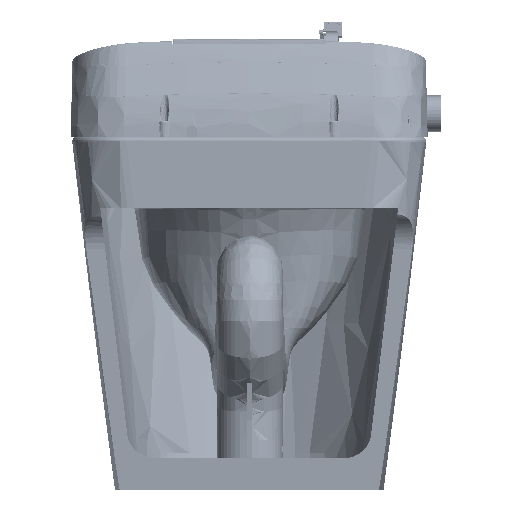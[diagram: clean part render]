
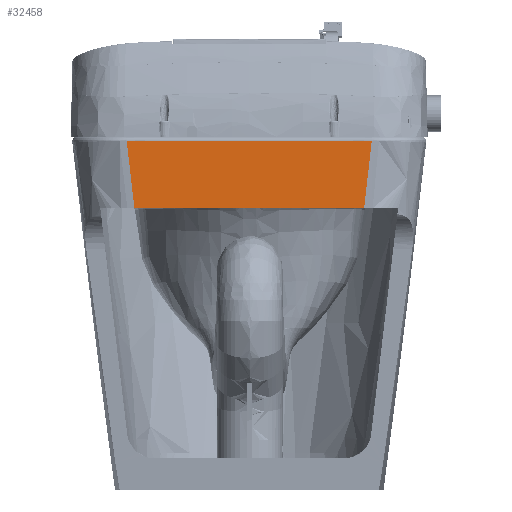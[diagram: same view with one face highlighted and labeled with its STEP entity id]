
A CAD part, left-side view. The second image highlights one B-rep face of the part: STEP entity #32458.
In plain terms, the highlighted free-form (B-spline) face has degree [1, 1] with [2, 2] control points.
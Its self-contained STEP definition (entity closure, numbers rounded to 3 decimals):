
#1366=(
BOUNDED_CURVE()
B_SPLINE_CURVE(3,(#435737,#435738,#435739,#435740,#435741,#435742),.UNSPECIFIED.,
 .F.,.F.)
B_SPLINE_CURVE_WITH_KNOTS((4,2,4),(0.,0.5,1.),.UNSPECIFIED.)
CURVE()
GEOMETRIC_REPRESENTATION_ITEM()
RATIONAL_B_SPLINE_CURVE((1.,1.,1.,1.,1.,1.))
REPRESENTATION_ITEM('')
);
#1368=(
BOUNDED_CURVE()
B_SPLINE_CURVE(3,(#435796,#435797,#435798,#435799,#435800,#435801),.UNSPECIFIED.,
 .F.,.F.)
B_SPLINE_CURVE_WITH_KNOTS((4,2,4),(0.,0.5,1.),.UNSPECIFIED.)
CURVE()
GEOMETRIC_REPRESENTATION_ITEM()
RATIONAL_B_SPLINE_CURVE((1.,1.,1.,1.,1.,1.))
REPRESENTATION_ITEM('')
);
#1369=(
BOUNDED_CURVE()
B_SPLINE_CURVE(3,(#435803,#435804,#435805,#435806),.UNSPECIFIED.,.F.,.F.)
B_SPLINE_CURVE_WITH_KNOTS((4,4),(0.,1.),.UNSPECIFIED.)
CURVE()
GEOMETRIC_REPRESENTATION_ITEM()
RATIONAL_B_SPLINE_CURVE((1.,1.,1.,1.))
REPRESENTATION_ITEM('')
);
#2767=B_SPLINE_SURFACE_WITH_KNOTS('',1,1,((#435807,#435808),(#435809,#435810)),
 .UNSPECIFIED.,.F.,.F.,.F.,(2,2),(2,2),(0.,1.),(0.,1.),.UNSPECIFIED.);
#18780=FACE_OUTER_BOUND('',#46839,.T.);
#32458=ADVANCED_FACE('',(#18780),#2767,.F.);
#46839=EDGE_LOOP('',(#87283,#87284,#87285,#87286));
#87283=ORIENTED_EDGE('',*,*,#123462,.F.);
#87284=ORIENTED_EDGE('',*,*,#123557,.F.);
#87285=ORIENTED_EDGE('',*,*,#123558,.F.);
#87286=ORIENTED_EDGE('',*,*,#123555,.F.);
#102726=VERTEX_POINT('',#426106);
#102727=VERTEX_POINT('',#426109);
#102784=VERTEX_POINT('',#435743);
#102785=VERTEX_POINT('',#435802);
#123462=EDGE_CURVE('',#102726,#102727,#138211,.T.);
#123555=EDGE_CURVE('',#102727,#102784,#1366,.T.);
#123557=EDGE_CURVE('',#102785,#102726,#1368,.T.);
#123558=EDGE_CURVE('',#102784,#102785,#1369,.T.);
#138211=B_SPLINE_CURVE_WITH_KNOTS('',1,(#426107,#426108),.UNSPECIFIED.,.F.,
 .F.,(2,2),(0.,1.),.UNSPECIFIED.);
#426106=CARTESIAN_POINT('',(-119.764,-126.34,-155.596));
#426107=CARTESIAN_POINT('',(-119.764,-126.34,-155.596));
#426108=CARTESIAN_POINT('',(-119.753,127.214,-155.596));
#426109=CARTESIAN_POINT('',(-119.753,127.214,-155.596));
#435737=CARTESIAN_POINT('',(-119.753,127.214,-155.596));
#435738=CARTESIAN_POINT('',(-119.753,128.74,-143.282));
#435739=CARTESIAN_POINT('',(-119.753,130.223,-130.962));
#435740=CARTESIAN_POINT('',(-119.753,133.061,-106.287));
#435741=CARTESIAN_POINT('',(-119.753,134.421,-93.933));
#435742=CARTESIAN_POINT('',(-119.753,135.668,-81.569));
#435743=CARTESIAN_POINT('',(-119.753,135.668,-81.569));
#435796=CARTESIAN_POINT('',(-119.764,-134.795,-81.569));
#435797=CARTESIAN_POINT('',(-119.764,-133.549,-93.926));
#435798=CARTESIAN_POINT('',(-119.764,-132.19,-106.272));
#435799=CARTESIAN_POINT('',(-119.764,-129.352,-130.948));
#435800=CARTESIAN_POINT('',(-119.764,-127.868,-143.275));
#435801=CARTESIAN_POINT('',(-119.764,-126.34,-155.596));
#435802=CARTESIAN_POINT('',(-119.764,-134.795,-81.569));
#435803=CARTESIAN_POINT('',(-119.753,135.668,-81.569));
#435804=CARTESIAN_POINT('',(-119.757,45.514,-81.569));
#435805=CARTESIAN_POINT('',(-119.761,-44.64,-81.569));
#435806=CARTESIAN_POINT('',(-119.764,-134.795,-81.569));
#435807=CARTESIAN_POINT('',(-119.765,-136.417,-155.596));
#435808=CARTESIAN_POINT('',(-119.765,-136.417,-81.569));
#435809=CARTESIAN_POINT('',(-119.753,137.291,-155.596));
#435810=CARTESIAN_POINT('',(-119.753,137.291,-81.569));
